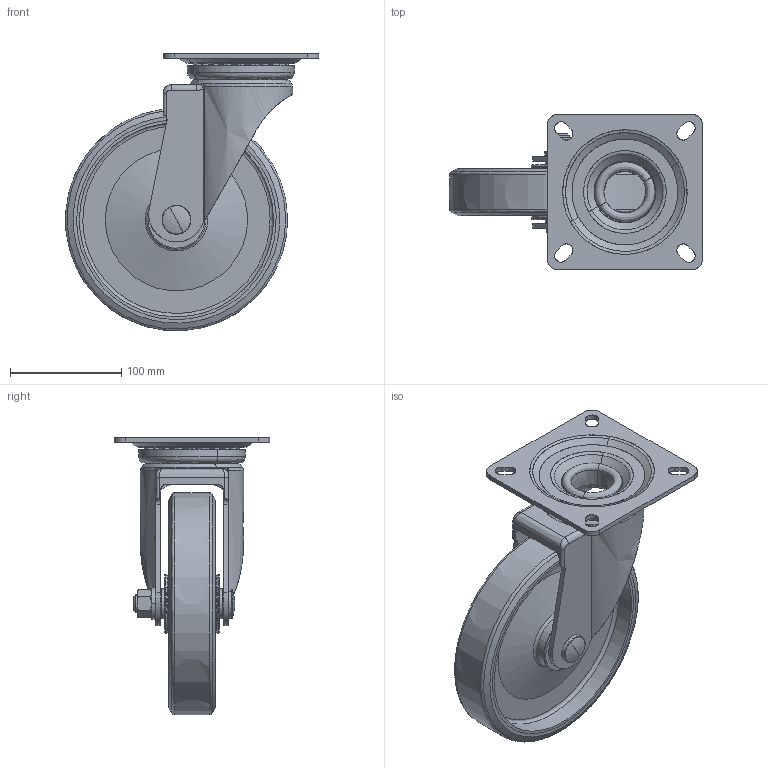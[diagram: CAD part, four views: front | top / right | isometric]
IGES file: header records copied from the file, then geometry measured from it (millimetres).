
Start section: JAMA-IS VERSION  1.0
Bounding box: 228 x 140 x 250 mm (x, y, z)
Surface area: 398984 mm2 (no closed solid volume)
Topology: 0 solids, 0 shells, 511 faces, 13651 edges, 13895 vertices
Faces by surface type: bspline 511
